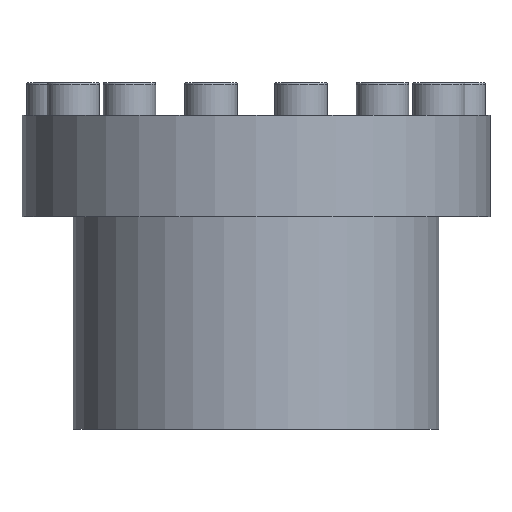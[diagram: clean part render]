
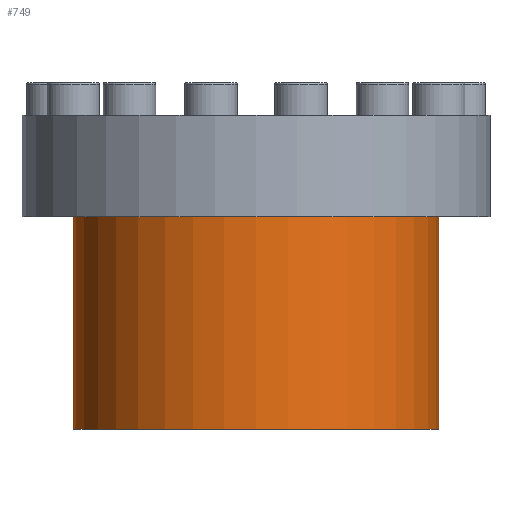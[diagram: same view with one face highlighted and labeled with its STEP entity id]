
A CAD part, front view. The second image highlights one B-rep face of the part: STEP entity #749.
In plain terms, the highlighted cylindrical face has radius 55.9 mm (diameter 111.8 mm), a partial arc.
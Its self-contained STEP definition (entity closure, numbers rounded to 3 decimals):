
#252 = CARTESIAN_POINT ( 'NONE',  ( 0., 0., -31. ) ) ;
#334 = EDGE_CURVE ( 'NONE', #391, #3508, #2465, .T. ) ;
#372 = CYLINDRICAL_SURFACE ( 'NONE', #2772, 55.9 ) ;
#378 = CARTESIAN_POINT ( 'NONE',  ( -55.9, 0., -96. ) ) ;
#391 = VERTEX_POINT ( 'NONE', #378 ) ;
#671 = CIRCLE ( 'NONE', #3545, 55.9 ) ;
#716 = ORIENTED_EDGE ( 'NONE', *, *, #334, .T. ) ;
#749 = ADVANCED_FACE ( 'NONE', ( #4820 ), #372, .T. ) ;
#791 = DIRECTION ( 'NONE',  ( 0., 0., 1. ) ) ;
#994 = DIRECTION ( 'NONE',  ( 0., 0., 1. ) ) ;
#1127 = AXIS2_PLACEMENT_3D ( 'NONE', #3895, #791, #1172 ) ;
#1172 = DIRECTION ( 'NONE',  ( 1., 0., 0. ) ) ;
#1206 = LINE ( 'NONE', #1721, #3819 ) ;
#1327 = LINE ( 'NONE', #2551, #2062 ) ;
#1361 = ORIENTED_EDGE ( 'NONE', *, *, #2577, .F. ) ;
#1363 = CARTESIAN_POINT ( 'NONE',  ( 55.9, 0., -96. ) ) ;
#1612 = CARTESIAN_POINT ( 'NONE',  ( -55.9, 0., -31. ) ) ;
#1721 = CARTESIAN_POINT ( 'NONE',  ( 55.9, 0., 0. ) ) ;
#2062 = VECTOR ( 'NONE', #994, 1000. ) ;
#2248 = DIRECTION ( 'NONE',  ( 1., 0., 0. ) ) ;
#2465 = CIRCLE ( 'NONE', #1127, 55.9 ) ;
#2551 = CARTESIAN_POINT ( 'NONE',  ( -55.9, 0., 0. ) ) ;
#2577 = EDGE_CURVE ( 'NONE', #391, #5049, #1327, .T. ) ;
#2772 = AXIS2_PLACEMENT_3D ( 'NONE', #4513, #2952, #4128 ) ;
#2952 = DIRECTION ( 'NONE',  ( 0., 0., 1. ) ) ;
#3030 = ORIENTED_EDGE ( 'NONE', *, *, #4945, .T. ) ;
#3032 = DIRECTION ( 'NONE',  ( 0., 0., 1. ) ) ;
#3304 = CARTESIAN_POINT ( 'NONE',  ( 55.9, 0., -31. ) ) ;
#3338 = ORIENTED_EDGE ( 'NONE', *, *, #4484, .F. ) ;
#3508 = VERTEX_POINT ( 'NONE', #1363 ) ;
#3545 = AXIS2_PLACEMENT_3D ( 'NONE', #252, #3032, #2248 ) ;
#3709 = EDGE_LOOP ( 'NONE', ( #1361, #716, #3030, #3338 ) ) ;
#3819 = VECTOR ( 'NONE', #4832, 1000. ) ;
#3895 = CARTESIAN_POINT ( 'NONE',  ( 0., 0., -96. ) ) ;
#4128 = DIRECTION ( 'NONE',  ( 1., 0., 0. ) ) ;
#4229 = VERTEX_POINT ( 'NONE', #3304 ) ;
#4484 = EDGE_CURVE ( 'NONE', #5049, #4229, #671, .T. ) ;
#4513 = CARTESIAN_POINT ( 'NONE',  ( 0., 0., 0. ) ) ;
#4820 = FACE_OUTER_BOUND ( 'NONE', #3709, .T. ) ;
#4832 = DIRECTION ( 'NONE',  ( 0., 0., 1. ) ) ;
#4945 = EDGE_CURVE ( 'NONE', #3508, #4229, #1206, .T. ) ;
#5049 = VERTEX_POINT ( 'NONE', #1612 ) ;
